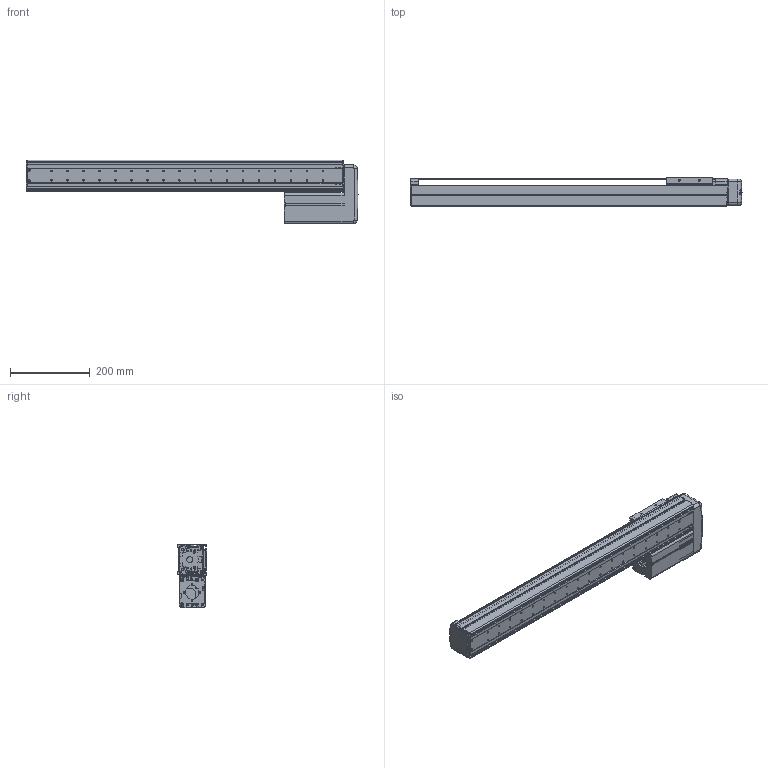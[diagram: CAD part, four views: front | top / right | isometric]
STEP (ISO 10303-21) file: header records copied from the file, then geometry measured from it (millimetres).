
FILE_DESCRIPTION((''),'2;1');
FILE_NAME('BE10E-UL-M_N-60_IGS_PRT','2017-06-17T',(' '),(''),'PRO/ENGINEER BY PARAMETRIC TECHNOLOGY CORPORATION, 2015030','PRO/ENGINEER BY PARAMETRIC TECHNOLOGY CORPORATION, 2015030','');
FILE_SCHEMA(('CONFIG_CONTROL_DESIGN'));
Length unit declared in the file: millimetre
Products named in the file (1): BE10E-UL-M_N-60_IGS_PRT
Bounding box: 832 x 75 x 160 mm (x, y, z)
Volume: 1251296.5 mm3; surface area: 852175.2 mm2
Topology: 2 solids, 113 shells, 1794 faces, 4842 edges, 3148 vertices
Faces by surface type: cylinder 857, plane 709, cone 81, torus 71, sphere 44, bspline 32
Entity records: 58668 total; most frequent: CARTESIAN_POINT 12413, DIRECTION 10044, ORIENTED_EDGE 9190, EDGE_CURVE 4806, AXIS2_PLACEMENT_3D 3755, VERTEX_POINT 3148, VECTOR 2534, LINE 2534
